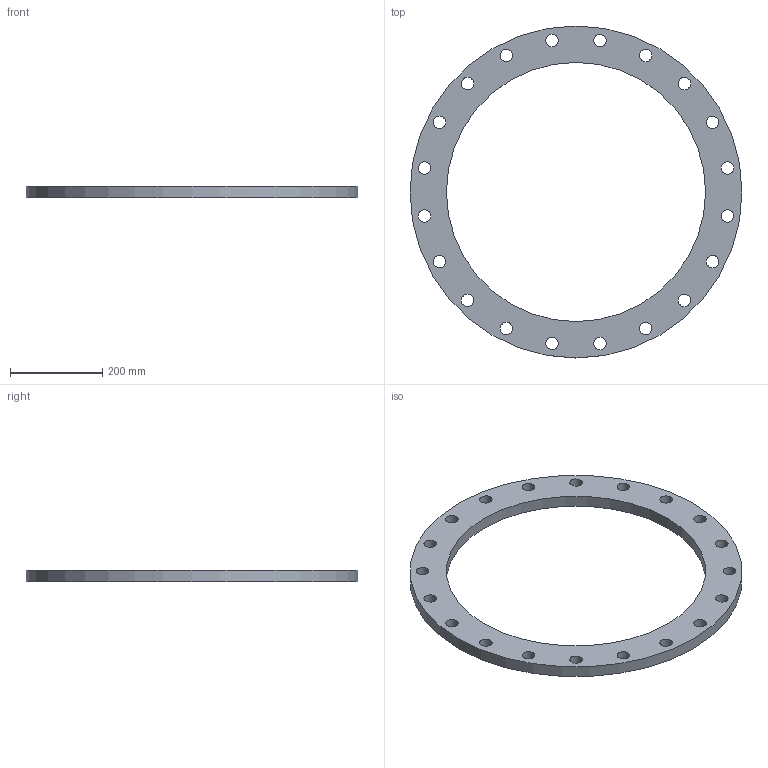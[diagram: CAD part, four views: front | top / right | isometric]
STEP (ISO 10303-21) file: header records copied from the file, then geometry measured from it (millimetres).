
FILE_DESCRIPTION(/* description */ (''),/* implementation_level */ '2;1');
FILE_NAME(/* name */ 'C:\Users\D\Documents\Inventor\HP\JIS\フランジ\JIS 5k sop ff\jis5k-sop-ff-550.stp',/* time_stamp */ '2024-09-12T16:54:14+09:00',/* author */ ('D'),/* organization */ (''),/* preprocessor_version */ 'ST-DEVELOPER v18',/* originating_system */ 'Autodesk Inventor 2020',/* authorisation */ '');
FILE_SCHEMA (('AUTOMOTIVE_DESIGN { 1 0 10303 214 3 1 1 }'));
Length unit declared in the file: millimetre
Products named in the file (1): jis5k-sop-rf-10
Bounding box: 720 x 720 x 26 mm (x, y, z)
Volume: 3838536.1 mm3; surface area: 444095.5 mm2
Topology: 1 solids, 1 shells, 24 faces, 89 edges, 67 vertices
Faces by surface type: cylinder 22, plane 2
Full cylindrical faces by diameter (mm): 27 x20, 562 x1, 720 x1
Entity records: 1149 total; most frequent: DIRECTION 206, CARTESIAN_POINT 181, ORIENTED_EDGE 178, AXIS2_PLACEMENT_3D 92, EDGE_CURVE 89, CIRCLE 67, VERTEX_POINT 67, EDGE_LOOP 66
